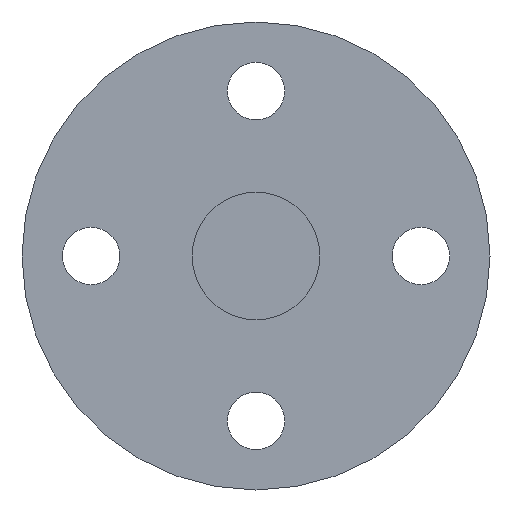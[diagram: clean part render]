
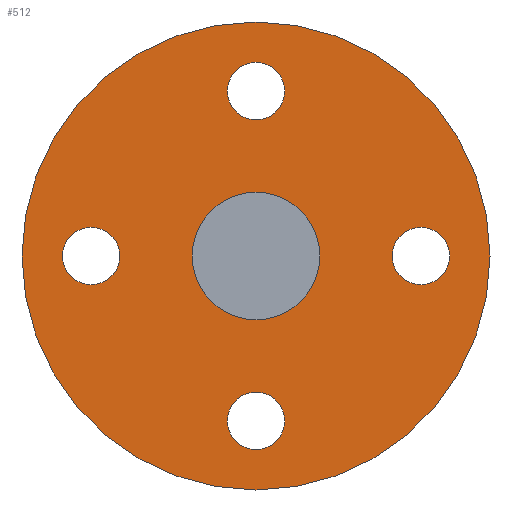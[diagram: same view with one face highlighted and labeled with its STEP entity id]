
A CAD part, left-side view. The second image highlights one B-rep face of the part: STEP entity #512.
In plain terms, the highlighted planar face has unit normal (-1, 0, 0).
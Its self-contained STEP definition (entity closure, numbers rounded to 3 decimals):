
#401=CARTESIAN_POINT('',(135.0,15.5,-2.7));
#402=VERTEX_POINT('',#401);
#403=CARTESIAN_POINT('',(135.0,15.5,0.));
#404=DIRECTION('',(1.0,0.0,0.0));
#405=DIRECTION('',(0.0,0.0,-1.0));
#406=AXIS2_PLACEMENT_3D('',#403,#404,#405);
#407=CIRCLE('',#406,2.7);
#408=EDGE_CURVE('',#402,#402,#407,.T.);
#421=CARTESIAN_POINT('',(135.0,-2.7,-15.5));
#422=VERTEX_POINT('',#421);
#423=CARTESIAN_POINT('',(135.0,0.,-15.5));
#424=DIRECTION('',(1.0,0.0,0.0));
#425=DIRECTION('',(0.0,-1.0,0.0));
#426=AXIS2_PLACEMENT_3D('',#423,#424,#425);
#427=CIRCLE('',#426,2.7);
#428=EDGE_CURVE('',#422,#422,#427,.T.);
#441=CARTESIAN_POINT('',(135.0,-15.5,2.7));
#442=VERTEX_POINT('',#441);
#443=CARTESIAN_POINT('',(135.0,-15.5,0.));
#444=DIRECTION('',(1.0,0.0,0.0));
#445=DIRECTION('',(0.0,0.0,1.0));
#446=AXIS2_PLACEMENT_3D('',#443,#444,#445);
#447=CIRCLE('',#446,2.7);
#448=EDGE_CURVE('',#442,#442,#447,.T.);
#461=CARTESIAN_POINT('',(135.0,2.7,15.5));
#462=VERTEX_POINT('',#461);
#463=CARTESIAN_POINT('',(135.0,0.0,15.5));
#464=DIRECTION('',(1.0,0.0,0.0));
#465=DIRECTION('',(0.0,1.0,0.0));
#466=AXIS2_PLACEMENT_3D('',#463,#464,#465);
#467=CIRCLE('',#466,2.7);
#468=EDGE_CURVE('',#462,#462,#467,.T.);
#473=CARTESIAN_POINT('',(135.0,0.0,14.));
#474=DIRECTION('',(-1.0,0.0,0.0));
#475=DIRECTION('',(0.0,0.0,1.0));
#476=AXIS2_PLACEMENT_3D('',#473,#474,#475);
#477=PLANE('',#476);
#478=CARTESIAN_POINT('',(135.0,0.0,22.0));
#479=VERTEX_POINT('',#478);
#480=CARTESIAN_POINT('',(135.0,0.0,0.0));
#481=DIRECTION('',(-1.0,0.0,0.0));
#482=DIRECTION('',(0.0,0.0,1.0));
#483=AXIS2_PLACEMENT_3D('',#480,#481,#482);
#484=CIRCLE('',#483,22.0);
#485=EDGE_CURVE('',#479,#479,#484,.T.);
#486=ORIENTED_EDGE('',*,*,#485,.T.);
#487=EDGE_LOOP('',(#486));
#488=FACE_OUTER_BOUND('',#487,.T.);
#489=ORIENTED_EDGE('',*,*,#408,.T.);
#490=EDGE_LOOP('',(#489));
#491=FACE_BOUND('',#490,.T.);
#492=ORIENTED_EDGE('',*,*,#428,.T.);
#493=EDGE_LOOP('',(#492));
#494=FACE_BOUND('',#493,.T.);
#495=ORIENTED_EDGE('',*,*,#448,.T.);
#496=EDGE_LOOP('',(#495));
#497=FACE_BOUND('',#496,.T.);
#498=ORIENTED_EDGE('',*,*,#468,.T.);
#499=EDGE_LOOP('',(#498));
#500=FACE_BOUND('',#499,.T.);
#501=CARTESIAN_POINT('',(135.0,0.0,6.));
#502=VERTEX_POINT('',#501);
#503=CARTESIAN_POINT('',(135.0,0.0,0.0));
#504=DIRECTION('',(-1.0,0.0,0.0));
#505=DIRECTION('',(0.0,0.0,1.0));
#506=AXIS2_PLACEMENT_3D('',#503,#504,#505);
#507=CIRCLE('',#506,6.);
#508=EDGE_CURVE('',#502,#502,#507,.T.);
#509=ORIENTED_EDGE('',*,*,#508,.F.);
#510=EDGE_LOOP('',(#509));
#511=FACE_BOUND('',#510,.T.);
#512=ADVANCED_FACE('',(#488,#491,#494,#497,#500,#511),#477,.T.);
